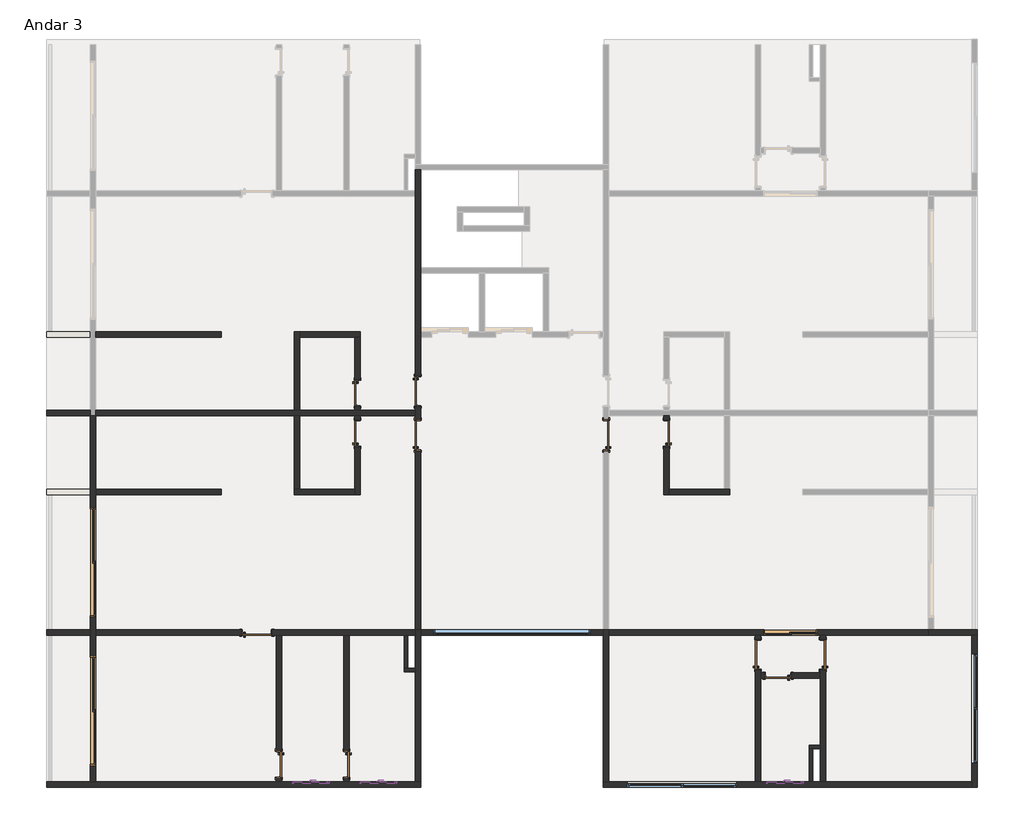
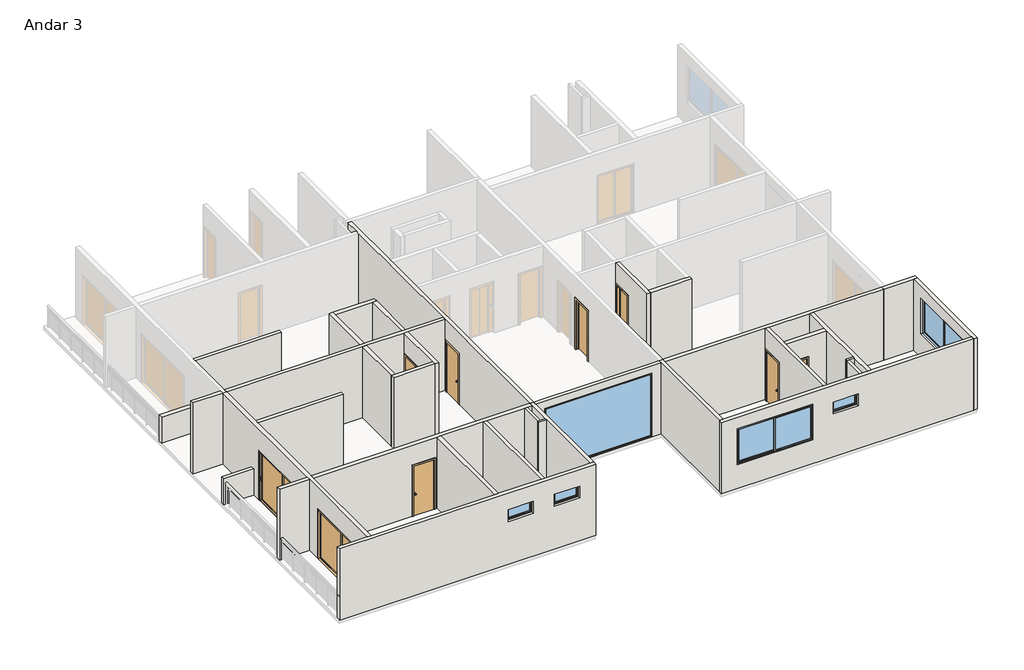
# One storey, part 1 of 3: 35 walls, 15 doors, 6 windows.
"""IFC4 building model written with IfcOpenShell, lengths in millimetres."""

from ifc_helpers import new_model, si_unit, frame, origin, place, context, project, spatial, polyline, outline, extrude, faceted_brep, transform, mapped, element, save
from components import door_3_00m_x_2_10m_5baaadc1, door_interior_single_flush_panel_wood_70m_89b55d44, door_interior_single_flush_panel_wood_70m_eb1ec4d9, door_interior_single_flush_panel_wood_80m_pcf_cb5077a7, door_interior_single_flush_panel_wood_80m_pcf_192ded05, p2_1_50m_x_2_10m_936728f7, window_d153a765, j1_3_00m_x_1_50m_28497eee, m_fixo_j3_4_30m_x_2_70m_9528c059

model = new_model("IFC4")

# Units and contexts
model_context = context("Model", 3, world=origin())
ifc_project = project(units=[si_unit("LENGTHUNIT", "METRE", prefix="MILLI")], contexts=[model_context])

# Site, building, storey
site = spatial("IfcSite", under=ifc_project)
building = spatial("IfcBuilding", under=site)
storey = spatial("IfcBuildingStorey", under=building, Name="Andar 3", Elevation=9150.0)

# Doors
placement = place(None, origin())
door_3_00m_x_2_10m_shape = door_3_00m_x_2_10m_5baaadc1(model_context)
element("IfcDoor", 1, ObjectType="Porta de Correr - 2 Folhas - ComPainel 1 : 3.00m x 2.10m", at=placement, inside=storey, context=model_context, shape_type="MappedRepresentation", body=[
    mapped(door_3_00m_x_2_10m_shape, transform((7275.0, 8395.7939229, 9150.0), x_axis=(0.0, 1.0, 0.0), y_axis=(-1.0, 0.0, 0.0), z_axis=(0.0, 0.0, 1.0))),
])
element("IfcDoor", 2, ObjectType="Porta de Correr - 2 Folhas - ComPainel 1 : 3.00m x 2.10m", at=placement, inside=storey, context=model_context, shape_type="MappedRepresentation", body=[
    mapped(door_3_00m_x_2_10m_shape, transform((7275.0, 4335.7939229, 9150.0), x_axis=(0.0, 1.0, 0.0), y_axis=(-1.0, 0.0, 0.0), z_axis=(0.0, 0.0, 1.0))),
])
door_interior_single_flush_panel_wood_70m_shape = door_interior_single_flush_panel_wood_70m_89b55d44(model_context)
element("IfcDoor", 3, ObjectType="Door-Interior-Single-Flush_Panel-Wood : .70m", at=placement, inside=storey, context=model_context, shape_type="MappedRepresentation", body=[
    mapped(door_interior_single_flush_panel_wood_70m_shape, transform((14496.825, 11949.6, 9150.0), x_axis=(0.0, 1.0, 0.0), y_axis=(-1.0, 0.0, 0.0), z_axis=(0.0, 0.0, 1.0))),
])
element("IfcDoor", 4, ObjectType="Door-Interior-Single-Flush_Panel-Wood : .70m", at=placement, inside=storey, context=model_context, shape_type="MappedRepresentation", body=[
    mapped(door_interior_single_flush_panel_wood_70m_shape, transform((14203.175, 2900.4, 9150.0), x_axis=(0.0, -1.0, 0.0), y_axis=(1.0, 0.0, 0.0), z_axis=(0.0, 0.0, 1.0))),
])
element("IfcDoor", 5, ObjectType="Door-Interior-Single-Flush_Panel-Wood : .70m", at=placement, inside=storey, context=model_context, shape_type="MappedRepresentation", body=[
    mapped(door_interior_single_flush_panel_wood_70m_shape, transform((26000.4, 5321.425, 9150.0), x_axis=(-1.0, 0.0, 0.0), y_axis=(0.0, -1.0, 0.0), z_axis=(0.0, 0.0, 1.0))),
])
element("IfcDoor", 6, ObjectType="Door-Interior-Single-Flush_Panel-Wood : .70m", at=placement, inside=storey, context=model_context, shape_type="MappedRepresentation", body=[
    mapped(door_interior_single_flush_panel_wood_70m_shape, transform((12353.175, 2900.4, 9150.0), x_axis=(0.0, -1.0, 0.0), y_axis=(1.0, 0.0, 0.0), z_axis=(0.0, 0.0, 1.0))),
])
door_interior_single_flush_panel_wood_70m_2_shape = door_interior_single_flush_panel_wood_70m_eb1ec4d9(model_context)
element("IfcDoor", 7, ObjectType="Door-Interior-Single-Flush_Panel-Wood : .70m", at=placement, inside=storey, context=model_context, shape_type="MappedRepresentation", body=[
    mapped(door_interior_single_flush_panel_wood_70m_2_shape, transform((14496.825, 13050.4, 9150.0), x_axis=(0.0, -1.0, 0.0), y_axis=(1.0, 0.0, 0.0), z_axis=(0.0, 0.0, 1.0))),
])
element("IfcDoor", 8, ObjectType="Door-Interior-Single-Flush_Panel-Wood : .70m", at=placement, inside=storey, context=model_context, shape_type="MappedRepresentation", body=[
    mapped(door_interior_single_flush_panel_wood_70m_2_shape, transform((22953.175, 11949.6, 9150.0), x_axis=(0.0, 1.0, 0.0), y_axis=(-1.0, 0.0, 0.0), z_axis=(0.0, 0.0, 1.0))),
])
door_interior_single_flush_panel_wood_80m_pcf_shape = door_interior_single_flush_panel_wood_80m_pcf_cb5077a7(model_context)
element("IfcDoor", 9, ObjectType="Door-Interior-Single-Flush_Panel-Wood : .80m", at=placement, inside=storey, context=model_context, shape_type="MappedRepresentation", body=[
    mapped(door_interior_single_flush_panel_wood_80m_pcf_shape, transform((11749.6, 6496.825, 9150.0), x_axis=(1.0, 0.0, 0.0), y_axis=(0.0, 1.0, 0.0), z_axis=(0.0, 0.0, 1.0))),
])
element("IfcDoor", 10, ObjectType="Door-Interior-Single-Flush_Panel-Wood : .80m", at=placement, inside=storey, context=model_context, shape_type="MappedRepresentation", body=[
    mapped(door_interior_single_flush_panel_wood_80m_pcf_shape, transform((27228.175, 5899.6, 9150.0), x_axis=(0.0, 1.0, 0.0), y_axis=(-1.0, 0.0, 0.0), z_axis=(0.0, 0.0, 1.0))),
])
door_interior_single_flush_panel_wood_80m_pcf_2_shape = door_interior_single_flush_panel_wood_80m_pcf_192ded05(model_context)
element("IfcDoor", 11, ObjectType="Door-Interior-Single-Flush_Panel-Wood : .80m", at=placement, inside=storey, context=model_context, shape_type="MappedRepresentation", body=[
    mapped(door_interior_single_flush_panel_wood_80m_pcf_2_shape, transform((25446.825, 5899.6, 9150.0), x_axis=(0.0, 1.0, 0.0), y_axis=(-1.0, 0.0, 0.0), z_axis=(0.0, 0.0, 1.0))),
])
element("IfcDoor", 12, ObjectType="Door-Interior-Single-Flush_Panel-Wood : .80m - PCF", at=placement, inside=storey, context=model_context, shape_type="MappedRepresentation", body=[
    mapped(door_interior_single_flush_panel_wood_80m_pcf_2_shape, transform((16146.825, 11899.6, 9150.0), x_axis=(0.0, 1.0, 0.0), y_axis=(-1.0, 0.0, 0.0), z_axis=(0.0, 0.0, 1.0))),
])
element("IfcDoor", 13, ObjectType="Door-Interior-Single-Flush_Panel-Wood : .80m - PCF", at=placement, inside=storey, context=model_context, shape_type="MappedRepresentation", body=[
    mapped(door_interior_single_flush_panel_wood_80m_pcf_shape, transform((16146.825, 13100.4, 9150.0), x_axis=(0.0, -1.0, 0.0), y_axis=(1.0, 0.0, 0.0), z_axis=(0.0, 0.0, 1.0))),
])
element("IfcDoor", 14, ObjectType="Door-Interior-Single-Flush_Panel-Wood : .80m - PCF", at=placement, inside=storey, context=model_context, shape_type="MappedRepresentation", body=[
    mapped(door_interior_single_flush_panel_wood_80m_pcf_shape, transform((21303.175, 11899.6, 9150.0), x_axis=(0.0, 1.0, 0.0), y_axis=(-1.0, 0.0, 0.0), z_axis=(0.0, 0.0, 1.0))),
])
p2_1_50m_x_2_10m_shape = p2_1_50m_x_2_10m_936728f7(model_context)
element("IfcDoor", 15, ObjectType="Porta de Correr - 2 Folhas - ComPainel 1 : P2 - 1.50m x 2.10m", at=placement, inside=storey, context=model_context, shape_type="MappedRepresentation", body=[
    mapped(p2_1_50m_x_2_10m_shape, transform((26308.2939229, 6500.0, 9150.0), x_axis=(1.0, 0.0, 0.0), y_axis=(0.0, 1.0, 0.0), z_axis=(0.0, 0.0, 1.0))),
])

# Walls
element("IfcWall", 16, ObjectType="M_Parede Normal - 10cm - Interna", at=placement, inside=storey, context=model_context, shape_type="Brep", body=[
    faceted_brep([(27150.0, 3425.0, 9150.0), (26850.0, 3425.0, 9150.0), (26850.0, 3425.0, 12150.0), (27150.0, 3425.0, 12150.0), (27150.0, 3325.0, 9150.0), (27150.0, 3325.0, 12150.0), (26950.0, 3325.0, 12150.0), (26850.0, 3325.0, 12150.0), (26850.0, 3325.0, 9150.0), (26950.0, 3325.0, 9150.0)], [[[0, 1, 2, 3]], [[4, 5, 6, 7, 8, 9]], [[1, 0, 4, 9, 8]], [[3, 2, 7, 6, 5]], [[2, 1, 8, 7]], [[0, 3, 5, 4]]]),
])
element("IfcWall", 17, ObjectType="M_Parede Normal - 10cm - Interna", at=placement, inside=storey, context=model_context, shape_type="SweptSolid", body=[
    extrude(outline(polyline([(26850.0, 2425.0), (26850.0, 3325.0), (26950.0, 3325.0), (26950.0, 2425.0), (26850.0, 2425.0)])), frame((0.0, 0.0, 9150.0), z_axis=(0.0, 0.0, 1.0), x_axis=(1.0, 0.0, 0.0)), (0.0, 0.0, 1.0), 3000.0),
])
element("IfcWall", 18, ObjectType="M_Parede Normal - 10cm - Interna", at=placement, inside=storey, context=model_context, shape_type="Brep", body=[
    faceted_brep([(16075.0, 5525.0, 9150.0), (15875.0, 5525.0, 9150.0), (15775.0, 5525.0, 9150.0), (15775.0, 5525.0, 12150.0), (15875.0, 5525.0, 12150.0), (16075.0, 5525.0, 12150.0), (16075.0, 5425.0, 9150.0), (16075.0, 5425.0, 12150.0), (15775.0, 5425.0, 12150.0), (15775.0, 5425.0, 9150.0)], [[[0, 1, 2, 3, 4, 5]], [[6, 7, 8, 9]], [[2, 1, 0, 6, 9]], [[5, 4, 3, 8, 7]], [[3, 2, 9, 8]], [[0, 5, 7, 6]]]),
])
element("IfcWall", 19, ObjectType="M_Parede Normal - 10cm - Interna", at=placement, inside=storey, context=model_context, shape_type="SweptSolid", body=[
    extrude(outline(polyline([(15875.0, 6425.0), (15875.0, 5525.0), (15775.0, 5525.0), (15775.0, 6425.0), (15875.0, 6425.0)])), frame((0.0, 0.0, 9150.0), z_axis=(0.0, 0.0, 1.0), x_axis=(1.0, 0.0, 0.0)), (0.0, 0.0, 1.0), 3000.0),
])
element("IfcWall", 20, ObjectType="M_Parede Normal - 15cm - Externa", at=placement, inside=storey, context=model_context, shape_type="SweptSolid", body=[
    extrude(outline(polyline([(7200.0, 14575.0), (6000.0, 14575.0), (6000.0, 14725.0), (7200.0, 14725.0), (7200.0, 14575.0)])), frame((0.0, 0.0, 9150.0), z_axis=(0.0, 0.0, 1.0), x_axis=(1.0, 0.0, 0.0)), (0.0, 0.0, 1.0), 1100.0),
])
element("IfcWall", 21, ObjectType="M_Parede Normal - 15cm - Externa", at=placement, inside=storey, context=model_context, shape_type="Brep", body=[
    faceted_brep([(16225.0, 2425.0, 9150.0), (16225.0, 6425.0, 9150.0), (16225.0, 6575.0, 9150.0), (16225.0, 6575.0, 12150.0), (16225.0, 6425.0, 12150.0), (16225.0, 2425.0, 12150.0), (16075.0, 2425.0, 9150.0), (16075.0, 2425.0, 12150.0), (16075.0, 2475.0, 12150.0), (16075.0, 5425.0, 12150.0), (16075.0, 5525.0, 12150.0), (16075.0, 6425.0, 12150.0), (16075.0, 6575.0, 12150.0), (16075.0, 6575.0, 9150.0), (16075.0, 6425.0, 9150.0), (16075.0, 5525.0, 9150.0), (16075.0, 5425.0, 9150.0)], [[[0, 1, 2, 3, 4, 5]], [[6, 7, 8, 9, 10, 11, 12, 13, 14, 15, 16]], [[2, 1, 0, 6, 16, 15, 14, 13]], [[5, 4, 3, 12, 11, 10, 9, 8, 7]], [[0, 5, 7, 6]], [[3, 2, 13, 12]]]),
])
element("IfcWall", 22, ObjectType="M_Parede Normal - 15cm - Externa", at=placement, inside=storey, context=model_context, shape_type="Brep", body=[
    faceted_brep([(6000.0, 2275.0, 9150.0), (16225.0, 2275.0, 9150.0), (16225.0, 2275.0, 12150.0), (6000.0, 2275.0, 12150.0), (13725.0, 2275.0, 10950.0), (12725.0, 2275.0, 10950.0), (12725.0, 2275.0, 11450.0), (13725.0, 2275.0, 11450.0), (15575.0, 2275.0, 10950.0), (14575.0, 2275.0, 10950.0), (14575.0, 2275.0, 11450.0), (15575.0, 2275.0, 11450.0), (6000.0, 2425.0, 9150.0), (6000.0, 2425.0, 12150.0), (6500.0, 2425.0, 12150.0), (7200.0, 2425.0, 12150.0), (7350.0, 2425.0, 12150.0), (12275.0, 2425.0, 12150.0), (12425.0, 2425.0, 12150.0), (14125.0, 2425.0, 12150.0), (14275.0, 2425.0, 12150.0), (15725.0, 2425.0, 12150.0), (16075.0, 2425.0, 12150.0), (16225.0, 2425.0, 12150.0), (16225.0, 2425.0, 9150.0), (16075.0, 2425.0, 9150.0), (14275.0, 2425.0, 9150.0), (14125.0, 2425.0, 9150.0), (12425.0, 2425.0, 9150.0), (12275.0, 2425.0, 9150.0), (7350.0, 2425.0, 9150.0), (7200.0, 2425.0, 9150.0), (13725.0, 2425.0, 10950.0), (13725.0, 2425.0, 11450.0), (12725.0, 2425.0, 11450.0), (12725.0, 2425.0, 10950.0), (15575.0, 2425.0, 10950.0), (15575.0, 2425.0, 11450.0), (14575.0, 2425.0, 11450.0), (14575.0, 2425.0, 10950.0)], [[[0, 1, 2, 3], [4, 5, 6, 7], [8, 9, 10, 11]], [[12, 13, 14, 15, 16, 17, 18, 19, 20, 21, 22, 23, 24, 25, 26, 27, 28, 29, 30, 31], [32, 33, 34, 35], [36, 37, 38, 39]], [[1, 0, 12, 31, 30, 29, 28, 27, 26, 25, 24]], [[3, 2, 23, 22, 21, 20, 19, 18, 17, 16, 15, 14, 13]], [[0, 3, 13, 12]], [[2, 1, 24, 23]], [[33, 32, 4, 7]], [[34, 33, 7, 6]], [[35, 34, 6, 5]], [[32, 35, 5, 4]], [[37, 36, 8, 11]], [[38, 37, 11, 10]], [[39, 38, 10, 9]], [[36, 39, 9, 8]]]),
])
element("IfcWall", 23, ObjectType="M_Parede Normal - 15cm - Externa", at=placement, inside=storey, context=model_context, shape_type="Brep", body=[
    faceted_brep([(7200.0, 2425.0, 12150.0), (7200.0, 6425.0, 12150.0), (7200.0, 6575.0, 12150.0), (7200.0, 12425.0, 12150.0), (7200.0, 12425.0, 9150.0), (7200.0, 9925.0, 9150.0), (7200.0, 9925.0, 11250.0), (7200.0, 6925.0, 11250.0), (7200.0, 6925.0, 9150.0), (7200.0, 6575.0, 9150.0), (7200.0, 6425.0, 9150.0), (7200.0, 5865.0, 9150.0), (7200.0, 5865.0, 11250.0), (7200.0, 2865.0, 11250.0), (7200.0, 2865.0, 9150.0), (7200.0, 2425.0, 9150.0), (7350.0, 12425.0, 12150.0), (7350.0, 6575.0, 12150.0), (7350.0, 6425.0, 12150.0), (7350.0, 2425.0, 12150.0), (7350.0, 2425.0, 9150.0), (7350.0, 2865.0, 9150.0), (7350.0, 2865.0, 11250.0), (7350.0, 5865.0, 11250.0), (7350.0, 5865.0, 9150.0), (7350.0, 6425.0, 9150.0), (7350.0, 6575.0, 9150.0), (7350.0, 6925.0, 9150.0), (7350.0, 6925.0, 11250.0), (7350.0, 9925.0, 11250.0), (7350.0, 9925.0, 9150.0), (7350.0, 12425.0, 9150.0)], [[[0, 1, 2, 3, 4, 5, 6, 7, 8, 9, 10, 11, 12, 13, 14, 15]], [[16, 17, 18, 19, 20, 21, 22, 23, 24, 25, 26, 27, 28, 29, 30, 31]], [[20, 15, 14, 21]], [[24, 11, 10, 9, 8, 27, 26, 25]], [[4, 31, 30, 5]], [[3, 2, 1, 0, 19, 18, 17, 16]], [[0, 15, 20, 19]], [[4, 3, 16, 31]], [[23, 12, 11, 24]], [[12, 23, 22, 13]], [[13, 22, 21, 14]], [[29, 6, 5, 30]], [[6, 29, 28, 7]], [[7, 28, 27, 8]]]),
])
element("IfcWall", 24, ObjectType="M_Parede Normal - 15cm - Externa", at=placement, inside=storey, context=model_context, shape_type="Brep", body=[
    faceted_brep([(21375.0, 2425.0, 9150.0), (21375.0, 6425.0, 9150.0), (21375.0, 6575.0, 9150.0), (21375.0, 6575.0, 12150.0), (21375.0, 6425.0, 12150.0), (21375.0, 2475.0, 12150.0), (21375.0, 2425.0, 12150.0), (21225.0, 2425.0, 9150.0), (21225.0, 2425.0, 12150.0), (21225.0, 6425.0, 12150.0), (21225.0, 6575.0, 12150.0), (21225.0, 6575.0, 9150.0), (21225.0, 6425.0, 9150.0)], [[[0, 1, 2, 3, 4, 5, 6]], [[7, 8, 9, 10, 11, 12]], [[2, 1, 0, 7, 12, 11]], [[6, 5, 4, 3, 10, 9, 8]], [[0, 6, 8, 7]], [[3, 2, 11, 10]]]),
])
element("IfcWall", 25, ObjectType="M_Parede Normal - 15cm - Externa", at=placement, inside=storey, context=model_context, shape_type="Brep", body=[
    faceted_brep([(31300.0, 6425.0, 9150.0), (31300.0, 2425.0, 9150.0), (31300.0, 2275.0, 9150.0), (31300.0, 2275.0, 12150.0), (31300.0, 2425.0, 12150.0), (31300.0, 2475.0, 12150.0), (31300.0, 6425.0, 12150.0), (31300.0, 5925.0, 10150.0), (31300.0, 5925.0, 11650.0), (31300.0, 2925.0, 11650.0), (31300.0, 2925.0, 10150.0), (31450.0, 6425.0, 9150.0), (31450.0, 6425.0, 12150.0), (31450.0, 2275.0, 12150.0), (31450.0, 2275.0, 9150.0), (31450.0, 5925.0, 10150.0), (31450.0, 2925.0, 10150.0), (31450.0, 2925.0, 11650.0), (31450.0, 5925.0, 11650.0)], [[[0, 1, 2, 3, 4, 5, 6], [7, 8, 9, 10]], [[11, 12, 13, 14], [15, 16, 17, 18]], [[2, 1, 0, 11, 14]], [[6, 5, 4, 3, 13, 12]], [[0, 6, 12, 11]], [[3, 2, 14, 13]], [[8, 7, 15, 18]], [[9, 8, 18, 17]], [[10, 9, 17, 16]], [[7, 10, 16, 15]]]),
])
element("IfcWall", 26, ObjectType="M_Parede Normal - 15cm - Externa", at=placement, inside=storey, context=model_context, shape_type="SweptSolid", body=[
    extrude(outline(polyline([(6000.0, 6575.0), (7200.0, 6575.0), (7200.0, 6425.0), (6000.0, 6425.0), (6000.0, 6575.0)])), frame((0.0, 0.0, 9150.0), z_axis=(0.0, 0.0, 1.0), x_axis=(1.0, 0.0, 0.0)), (0.0, 0.0, 1.0), 3000.0),
])
element("IfcWall", 27, ObjectType="M_Parede Normal - 15cm - Externa", at=placement, inside=storey, context=model_context, shape_type="Brep", body=[
    faceted_brep([(30100.0, 6425.0, 9150.0), (31300.0, 6425.0, 9150.0), (31450.0, 6425.0, 9150.0), (31450.0, 6425.0, 12150.0), (31300.0, 6425.0, 12150.0), (30100.0, 6425.0, 12150.0), (30100.0, 6575.0, 9150.0), (30100.0, 6575.0, 12150.0), (30250.0, 6575.0, 12150.0), (31450.0, 6575.0, 12150.0), (31450.0, 6575.0, 9150.0), (30250.0, 6575.0, 9150.0)], [[[0, 1, 2, 3, 4, 5]], [[6, 7, 8, 9, 10, 11]], [[2, 1, 0, 6, 11, 10]], [[5, 4, 3, 9, 8, 7]], [[3, 2, 10, 9]], [[0, 5, 7, 6]]]),
])
element("IfcWall", 28, ObjectType="M_Parede Normal - 15cm - Externa", at=placement, inside=storey, context=model_context, shape_type="SweptSolid", body=[
    extrude(outline(polyline([(7200.0, 10275.0), (6000.0, 10275.0), (6000.0, 10425.0), (7200.0, 10425.0), (7200.0, 10275.0)])), frame((0.0, 0.0, 9150.0), z_axis=(0.0, 0.0, 1.0), x_axis=(1.0, 0.0, 0.0)), (0.0, 0.0, 1.0), 1100.0),
])
element("IfcWall", 29, ObjectType="M_Parede Normal - 15cm - Externa", at=placement, inside=storey, context=model_context, shape_type="Brep", body=[
    faceted_brep([(21225.0, 6425.0, 12150.0), (16225.0, 6425.0, 12150.0), (16225.0, 6425.0, 9150.0), (16575.0, 6425.0, 9150.0), (16575.0, 6425.0, 11850.0), (20875.0, 6425.0, 11850.0), (20875.0, 6425.0, 9150.0), (21225.0, 6425.0, 9150.0), (16225.0, 6575.0, 12150.0), (16575.0, 6575.0, 12150.0), (20875.0, 6575.0, 12150.0), (21225.0, 6575.0, 12150.0), (21225.0, 6575.0, 9150.0), (20875.0, 6575.0, 9150.0), (20875.0, 6575.0, 11850.0), (16575.0, 6575.0, 11850.0), (16575.0, 6575.0, 9150.0), (16225.0, 6575.0, 9150.0)], [[[0, 1, 2, 3, 4, 5, 6, 7]], [[8, 9, 10, 11, 12, 13, 14, 15, 16, 17]], [[2, 17, 16, 3]], [[12, 7, 6, 13]], [[1, 0, 11, 10, 9, 8]], [[2, 1, 8, 17]], [[0, 7, 12, 11]], [[5, 14, 13, 6]], [[14, 5, 4, 15]], [[15, 4, 3, 16]]]),
])
element("IfcWall", 30, ObjectType="M_Parede Normal - 15cm - Externa", at=placement, inside=storey, context=model_context, shape_type="Brep", body=[
    faceted_brep([(21225.0, 2275.0, 9150.0), (31300.0, 2275.0, 9150.0), (31300.0, 2275.0, 12150.0), (21225.0, 2275.0, 12150.0), (24875.0, 2275.0, 10150.0), (21875.0, 2275.0, 10150.0), (21875.0, 2275.0, 11650.0), (24875.0, 2275.0, 11650.0), (26687.5, 2275.0, 10950.0), (25687.5, 2275.0, 10950.0), (25687.5, 2275.0, 11450.0), (26687.5, 2275.0, 11450.0), (21225.0, 2425.0, 9150.0), (21225.0, 2425.0, 12150.0), (21375.0, 2425.0, 12150.0), (21725.0, 2425.0, 12150.0), (25375.0, 2425.0, 12150.0), (25525.0, 2425.0, 12150.0), (26850.0, 2425.0, 12150.0), (26950.0, 2425.0, 12150.0), (27150.0, 2425.0, 12150.0), (27300.0, 2425.0, 12150.0), (30950.0, 2425.0, 12150.0), (31300.0, 2425.0, 12150.0), (31300.0, 2425.0, 9150.0), (27300.0, 2425.0, 9150.0), (27150.0, 2425.0, 9150.0), (26950.0, 2425.0, 9150.0), (26850.0, 2425.0, 9150.0), (25525.0, 2425.0, 9150.0), (25375.0, 2425.0, 9150.0), (21375.0, 2425.0, 9150.0), (24875.0, 2425.0, 10150.0), (24875.0, 2425.0, 11650.0), (21875.0, 2425.0, 11650.0), (21875.0, 2425.0, 10150.0), (26687.5, 2425.0, 10950.0), (26687.5, 2425.0, 11450.0), (25687.5, 2425.0, 11450.0), (25687.5, 2425.0, 10950.0)], [[[0, 1, 2, 3], [4, 5, 6, 7], [8, 9, 10, 11]], [[12, 13, 14, 15, 16, 17, 18, 19, 20, 21, 22, 23, 24, 25, 26, 27, 28, 29, 30, 31], [32, 33, 34, 35], [36, 37, 38, 39]], [[1, 0, 12, 31, 30, 29, 28, 27, 26, 25, 24]], [[3, 2, 23, 22, 21, 20, 19, 18, 17, 16, 15, 14, 13]], [[2, 1, 24, 23]], [[0, 3, 13, 12]], [[33, 32, 4, 7]], [[34, 33, 7, 6]], [[35, 34, 6, 5]], [[32, 35, 5, 4]], [[37, 36, 8, 11]], [[38, 37, 11, 10]], [[39, 38, 10, 9]], [[36, 39, 9, 8]]]),
])
element("IfcWall", 31, ObjectType="M_Parede Normal - 15cm - Externa", at=placement, inside=storey, context=model_context, shape_type="Brep", body=[
    faceted_brep([(7200.0, 12575.0, 9150.0), (6000.0, 12575.0, 9150.0), (6000.0, 12575.0, 12150.0), (6500.0, 12575.0, 12150.0), (7200.0, 12575.0, 12150.0), (7200.0, 12425.0, 9150.0), (7200.0, 12425.0, 12150.0), (6500.0, 12425.0, 12150.0), (6000.0, 12425.0, 12150.0), (6000.0, 12425.0, 9150.0)], [[[0, 1, 2, 3, 4]], [[5, 6, 7, 8, 9]], [[1, 0, 5, 9]], [[2, 1, 9, 8]], [[4, 3, 2, 8, 7, 6]], [[0, 4, 6, 5]]]),
])
element("IfcWall", 32, ObjectType="M_Parede Normal - 15cm - Interna", at=placement, inside=storey, context=model_context, shape_type="SweptSolid", body=[
    extrude(outline(polyline([(12575.0, 12150.0), (14575.0, 12150.0), (14575.0, 9150.0), (13425.8, 9150.0), (13425.8, 11275.4), (12675.0, 11275.4), (12675.0, 9150.0), (12575.0, 9150.0), (12575.0, 12150.0)])), frame((14425.0, 0.0, 0.0), z_axis=(1.0, 0.0, 0.0), x_axis=(0.0, 1.0, 0.0)), (0.0, 0.0, 1.0), 150.0),
])
element("IfcWall", 33, ObjectType="M_Parede Normal - 15cm - Interna", at=placement, inside=storey, context=model_context, shape_type="Brep", body=[
    faceted_brep([(14575.0, 14725.0, 9150.0), (12925.0, 14725.0, 9150.0), (12925.0, 14725.0, 12150.0), (14575.0, 14725.0, 12150.0), (14575.0, 14575.0, 9150.0), (14575.0, 14575.0, 12150.0), (14425.0, 14575.0, 12150.0), (12925.0, 14575.0, 12150.0), (12925.0, 14575.0, 9150.0), (14425.0, 14575.0, 9150.0)], [[[0, 1, 2, 3]], [[4, 5, 6, 7, 8, 9]], [[1, 0, 4, 9, 8]], [[3, 2, 7, 6, 5]], [[0, 3, 5, 4]], [[2, 1, 8, 7]]]),
])
element("IfcWall", 34, ObjectType="M_Parede Normal - 15cm - Interna", at=placement, inside=storey, context=model_context, shape_type="Brep", body=[
    faceted_brep([(12775.0, 14725.0, 9150.0), (12775.0, 12575.0, 9150.0), (12775.0, 12575.0, 12150.0), (12775.0, 14725.0, 12150.0), (12925.0, 14725.0, 9150.0), (12925.0, 14725.0, 12150.0), (12925.0, 14575.0, 12150.0), (12925.0, 12575.0, 12150.0), (12925.0, 12575.0, 9150.0), (12925.0, 14575.0, 9150.0)], [[[0, 1, 2, 3]], [[4, 5, 6, 7, 8, 9]], [[1, 0, 4, 9, 8]], [[3, 2, 7, 6, 5]], [[0, 3, 5, 4]], [[2, 1, 8, 7]]]),
])
element("IfcWall", 35, ObjectType="M_Parede Normal - 15cm - Interna", at=placement, inside=storey, context=model_context, shape_type="SweptSolid", body=[
    extrude(outline(polyline([(10775.0, 14575.0), (7350.0, 14575.0), (7350.0, 14725.0), (10775.0, 14725.0), (10775.0, 14575.0)])), frame((0.0, 0.0, 9150.0), z_axis=(0.0, 0.0, 1.0), x_axis=(1.0, 0.0, 0.0)), (0.0, 0.0, 1.0), 3000.0),
])
element("IfcWall", 36, ObjectType="M_Parede Normal - 15cm - Interna", at=placement, inside=storey, context=model_context, shape_type="Brep", body=[
    faceted_brep([(16075.0, 12575.0, 9150.0), (14575.0, 12575.0, 9150.0), (14425.0, 12575.0, 9150.0), (12925.0, 12575.0, 9150.0), (12775.0, 12575.0, 9150.0), (7350.0, 12575.0, 9150.0), (7350.0, 12575.0, 12150.0), (12775.0, 12575.0, 12150.0), (12925.0, 12575.0, 12150.0), (14425.0, 12575.0, 12150.0), (14575.0, 12575.0, 12150.0), (15725.0, 12575.0, 12150.0), (16075.0, 12575.0, 12150.0), (16075.0, 12425.0, 9150.0), (16075.0, 12425.0, 12150.0), (15725.0, 12425.0, 12150.0), (14575.0, 12425.0, 12150.0), (14425.0, 12425.0, 12150.0), (12925.0, 12425.0, 12150.0), (12775.0, 12425.0, 12150.0), (7350.0, 12425.0, 12150.0), (7350.0, 12425.0, 9150.0), (12775.0, 12425.0, 9150.0), (12925.0, 12425.0, 9150.0), (14425.0, 12425.0, 9150.0), (14575.0, 12425.0, 9150.0)], [[[0, 1, 2, 3, 4, 5, 6, 7, 8, 9, 10, 11, 12]], [[13, 14, 15, 16, 17, 18, 19, 20, 21, 22, 23, 24, 25]], [[5, 4, 3, 2, 1, 0, 13, 25, 24, 23, 22, 21]], [[12, 11, 10, 9, 8, 7, 6, 20, 19, 18, 17, 16, 15, 14]], [[0, 12, 14, 13]], [[6, 5, 21, 20]]]),
])
element("IfcWall", 37, ObjectType="M_Parede Normal - 15cm - Interna", at=placement, inside=storey, context=model_context, shape_type="Brep", body=[
    faceted_brep([(16075.0, 6575.0, 12150.0), (16075.0, 12400.0, 12150.0), (16075.0, 12425.0, 12150.0), (16075.0, 12575.0, 12150.0), (16075.0, 12600.0, 12150.0), (16075.0, 18425.0, 12150.0), (16075.0, 18575.0, 12150.0), (16075.0, 19149.2009656, 12150.0), (16075.0, 19149.2009656, 9150.0), (16075.0, 18575.0, 9150.0), (16075.0, 18425.0, 9150.0), (16075.0, 13525.8, 9150.0), (16075.0, 13525.8, 11275.4), (16075.0, 12675.0, 11275.4), (16075.0, 12675.0, 9150.0), (16075.0, 12575.0, 9150.0), (16075.0, 12425.0, 9150.0), (16075.0, 12325.0, 9150.0), (16075.0, 12325.0, 11275.4), (16075.0, 11474.2, 11275.4), (16075.0, 11474.2, 9150.0), (16075.0, 6575.0, 9150.0), (16225.0, 19149.2009656, 12150.0), (16225.0, 19099.2009656, 12150.0), (16225.0, 16525.0, 12150.0), (16225.0, 16475.0, 12150.0), (16225.0, 16325.0, 12150.0), (16225.0, 14725.0, 12150.0), (16225.0, 14575.0, 12150.0), (16225.0, 6625.0, 12150.0), (16225.0, 6575.0, 12150.0), (16225.0, 6575.0, 9150.0), (16225.0, 11474.2, 9150.0), (16225.0, 11474.2, 11275.4), (16225.0, 12325.0, 11275.4), (16225.0, 12325.0, 9150.0), (16225.0, 12675.0, 9150.0), (16225.0, 12675.0, 11275.4), (16225.0, 13525.8, 11275.4), (16225.0, 13525.8, 9150.0), (16225.0, 14575.0, 9150.0), (16225.0, 14725.0, 9150.0), (16225.0, 16325.0, 9150.0), (16225.0, 16475.0, 9150.0), (16225.0, 19149.2009656, 9150.0)], [[[0, 1, 2, 3, 4, 5, 6, 7, 8, 9, 10, 11, 12, 13, 14, 15, 16, 17, 18, 19, 20, 21]], [[22, 23, 24, 25, 26, 27, 28, 29, 30, 31, 32, 33, 34, 35, 36, 37, 38, 39, 40, 41, 42, 43, 44]], [[14, 36, 35, 17, 16, 15]], [[11, 10, 9, 8, 44, 43, 42, 41, 40, 39]], [[31, 21, 20, 32]], [[7, 6, 5, 4, 3, 2, 1, 0, 30, 29, 28, 27, 26, 25, 24, 23, 22]], [[13, 37, 36, 14]], [[37, 13, 12, 38]], [[38, 12, 11, 39]], [[8, 7, 22, 44]], [[0, 21, 31, 30]], [[34, 18, 17, 35]], [[18, 34, 33, 19]], [[19, 33, 32, 20]]]),
])
element("IfcWall", 38, ObjectType="M_Parede Normal - 15cm - Interna", at=placement, inside=storey, context=model_context, shape_type="Brep", body=[
    faceted_brep([(7350.0, 6575.0, 12150.0), (16075.0, 6575.0, 12150.0), (16075.0, 6575.0, 9150.0), (12175.0, 6575.0, 9150.0), (12175.0, 6575.0, 11275.4), (11324.2, 6575.0, 11275.4), (11324.2, 6575.0, 9150.0), (7350.0, 6575.0, 9150.0), (16075.0, 6425.0, 12150.0), (15875.0, 6425.0, 12150.0), (15775.0, 6425.0, 12150.0), (14275.0, 6425.0, 12150.0), (14125.0, 6425.0, 12150.0), (12425.0, 6425.0, 12150.0), (12275.0, 6425.0, 12150.0), (7350.0, 6425.0, 12150.0), (7350.0, 6425.0, 9150.0), (11324.2, 6425.0, 9150.0), (11324.2, 6425.0, 11275.4), (12175.0, 6425.0, 11275.4), (12175.0, 6425.0, 9150.0), (12275.0, 6425.0, 9150.0), (12425.0, 6425.0, 9150.0), (14125.0, 6425.0, 9150.0), (14275.0, 6425.0, 9150.0), (15775.0, 6425.0, 9150.0), (15875.0, 6425.0, 9150.0), (16075.0, 6425.0, 9150.0)], [[[0, 1, 2, 3, 4, 5, 6, 7]], [[8, 9, 10, 11, 12, 13, 14, 15, 16, 17, 18, 19, 20, 21, 22, 23, 24, 25, 26, 27]], [[2, 27, 26, 25, 24, 23, 22, 21, 20, 3]], [[16, 7, 6, 17]], [[1, 0, 15, 14, 13, 12, 11, 10, 9, 8]], [[19, 4, 3, 20]], [[4, 19, 18, 5]], [[5, 18, 17, 6]], [[2, 1, 8, 27]], [[0, 7, 16, 15]]]),
])
element("IfcWall", 39, ObjectType="M_Parede Normal - 15cm - Interna", at=placement, inside=storey, context=model_context, shape_type="SweptSolid", body=[
    extrude(outline(polyline([(2425.0, 12150.0), (6425.0, 12150.0), (6425.0, 9150.0), (3275.8, 9150.0), (3275.8, 11275.4), (2525.0, 11275.4), (2525.0, 9150.0), (2425.0, 9150.0), (2425.0, 12150.0)])), frame((14125.0, 0.0, 0.0), z_axis=(1.0, 0.0, 0.0), x_axis=(0.0, 1.0, 0.0)), (0.0, 0.0, 1.0), 150.0),
])
element("IfcWall", 40, ObjectType="M_Parede Normal - 15cm - Interna", at=placement, inside=storey, context=model_context, shape_type="Brep", body=[
    faceted_brep([(14425.0, 10275.0, 12150.0), (14425.0, 10425.0, 12150.0), (14425.0, 12425.0, 12150.0), (14425.0, 12425.0, 9150.0), (14425.0, 12325.0, 9150.0), (14425.0, 12325.0, 11275.4), (14425.0, 11574.2, 11275.4), (14425.0, 11574.2, 9150.0), (14425.0, 10425.0, 9150.0), (14425.0, 10275.0, 9150.0), (14575.0, 12425.0, 12150.0), (14575.0, 10275.0, 12150.0), (14575.0, 10275.0, 9150.0), (14575.0, 11574.2, 9150.0), (14575.0, 11574.2, 11275.4), (14575.0, 12325.0, 11275.4), (14575.0, 12325.0, 9150.0), (14575.0, 12425.0, 9150.0)], [[[0, 1, 2, 3, 4, 5, 6, 7, 8, 9]], [[10, 11, 12, 13, 14, 15, 16, 17]], [[12, 9, 8, 7, 13]], [[3, 17, 16, 4]], [[2, 1, 0, 11, 10]], [[15, 5, 4, 16]], [[5, 15, 14, 6]], [[6, 14, 13, 7]], [[0, 9, 12, 11]], [[3, 2, 10, 17]]]),
])
element("IfcWall", 41, ObjectType="M_Parede Normal - 15cm - Interna", at=placement, inside=storey, context=model_context, shape_type="Brep", body=[
    faceted_brep([(14425.0, 10425.0, 9150.0), (12925.0, 10425.0, 9150.0), (12775.0, 10425.0, 9150.0), (12775.0, 10425.0, 12150.0), (12925.0, 10425.0, 12150.0), (14425.0, 10425.0, 12150.0), (14425.0, 10275.0, 9150.0), (14425.0, 10275.0, 12150.0), (12775.0, 10275.0, 12150.0), (12775.0, 10275.0, 9150.0)], [[[0, 1, 2, 3, 4, 5]], [[6, 7, 8, 9]], [[2, 1, 0, 6, 9]], [[5, 4, 3, 8, 7]], [[3, 2, 9, 8]], [[0, 5, 7, 6]]]),
])
element("IfcWall", 42, ObjectType="M_Parede Normal - 15cm - Interna", at=placement, inside=storey, context=model_context, shape_type="SweptSolid", body=[
    extrude(outline(polyline([(12925.0, 12425.0), (12925.0, 10425.0), (12775.0, 10425.0), (12775.0, 12425.0), (12925.0, 12425.0)])), frame((0.0, 0.0, 9150.0), z_axis=(0.0, 0.0, 1.0), x_axis=(1.0, 0.0, 0.0)), (0.0, 0.0, 1.0), 3000.0),
])
element("IfcWall", 43, ObjectType="M_Parede Normal - 15cm - Interna", at=placement, inside=storey, context=model_context, shape_type="SweptSolid", body=[
    extrude(outline(polyline([(10775.0, 10275.0), (7350.0, 10275.0), (7350.0, 10425.0), (10775.0, 10425.0), (10775.0, 10275.0)])), frame((0.0, 0.0, 9150.0), z_axis=(0.0, 0.0, 1.0), x_axis=(1.0, 0.0, 0.0)), (0.0, 0.0, 1.0), 3000.0),
])
element("IfcWall", 44, ObjectType="M_Parede Normal - 15cm - Interna", at=placement, inside=storey, context=model_context, shape_type="Brep", body=[
    faceted_brep([(30100.0, 6425.0, 12150.0), (27300.0, 6425.0, 12150.0), (27150.0, 6425.0, 12150.0), (25525.0, 6425.0, 12150.0), (25375.0, 6425.0, 12150.0), (21375.0, 6425.0, 12150.0), (21375.0, 6425.0, 9150.0), (25375.0, 6425.0, 9150.0), (25525.0, 6425.0, 9150.0), (25587.5, 6425.0, 9150.0), (25587.5, 6425.0, 11250.0), (27087.5, 6425.0, 11250.0), (27087.5, 6425.0, 9150.0), (27150.0, 6425.0, 9150.0), (27300.0, 6425.0, 9150.0), (30100.0, 6425.0, 9150.0), (21375.0, 6575.0, 12150.0), (30100.0, 6575.0, 12150.0), (30100.0, 6575.0, 9150.0), (27087.5, 6575.0, 9150.0), (27087.5, 6575.0, 11250.0), (25587.5, 6575.0, 11250.0), (25587.5, 6575.0, 9150.0), (21375.0, 6575.0, 9150.0)], [[[0, 1, 2, 3, 4, 5, 6, 7, 8, 9, 10, 11, 12, 13, 14, 15]], [[16, 17, 18, 19, 20, 21, 22, 23]], [[6, 23, 22, 9, 8, 7]], [[18, 15, 14, 13, 12, 19]], [[5, 4, 3, 2, 1, 0, 17, 16]], [[11, 20, 19, 12]], [[20, 11, 10, 21]], [[21, 10, 9, 22]], [[6, 5, 16, 23]], [[0, 15, 18, 17]]]),
])
element("IfcWall", 45, ObjectType="M_Parede Normal - 15cm - Interna", at=placement, inside=storey, context=model_context, shape_type="Brep", body=[
    faceted_brep([(22875.0, 10275.0, 12150.0), (22875.0, 12425.0, 12150.0), (22875.0, 12425.0, 9150.0), (22875.0, 12325.0, 9150.0), (22875.0, 12325.0, 11275.4), (22875.0, 11574.2, 11275.4), (22875.0, 11574.2, 9150.0), (22875.0, 10275.0, 9150.0), (23025.0, 12425.0, 12150.0), (23025.0, 10425.0, 12150.0), (23025.0, 10275.0, 12150.0), (23025.0, 10275.0, 9150.0), (23025.0, 10425.0, 9150.0), (23025.0, 11574.2, 9150.0), (23025.0, 11574.2, 11275.4), (23025.0, 12325.0, 11275.4), (23025.0, 12325.0, 9150.0), (23025.0, 12425.0, 9150.0)], [[[0, 1, 2, 3, 4, 5, 6, 7]], [[8, 9, 10, 11, 12, 13, 14, 15, 16, 17]], [[11, 7, 6, 13, 12]], [[2, 17, 16, 3]], [[1, 0, 10, 9, 8]], [[15, 4, 3, 16]], [[4, 15, 14, 5]], [[5, 14, 13, 6]], [[0, 7, 11, 10]], [[2, 1, 8, 17]]]),
])
element("IfcWall", 46, ObjectType="M_Parede Normal - 15cm - Interna", at=placement, inside=storey, context=model_context, shape_type="Brep", body=[
    faceted_brep([(23025.0, 10275.0, 9150.0), (24675.0, 10275.0, 9150.0), (24675.0, 10275.0, 12150.0), (23025.0, 10275.0, 12150.0), (23025.0, 10425.0, 9150.0), (23025.0, 10425.0, 12150.0), (24525.0, 10425.0, 12150.0), (24675.0, 10425.0, 12150.0), (24675.0, 10425.0, 9150.0), (24525.0, 10425.0, 9150.0)], [[[0, 1, 2, 3]], [[4, 5, 6, 7, 8, 9]], [[1, 0, 4, 9, 8]], [[3, 2, 7, 6, 5]], [[2, 1, 8, 7]], [[0, 3, 5, 4]]]),
])
element("IfcWall", 47, ObjectType="M_Parede Normal - 15cm - Interna", at=placement, inside=storey, context=model_context, shape_type="Brep", body=[
    faceted_brep([(27150.0, 2425.0, 12150.0), (27150.0, 3325.0, 12150.0), (27150.0, 3425.0, 12150.0), (27150.0, 5249.6, 12150.0), (27150.0, 5399.6, 12150.0), (27150.0, 6425.0, 12150.0), (27150.0, 6425.0, 9150.0), (27150.0, 6325.0, 9150.0), (27150.0, 6325.0, 11275.4), (27150.0, 5474.2, 11275.4), (27150.0, 5474.2, 9150.0), (27150.0, 5399.6, 9150.0), (27150.0, 5249.6, 9150.0), (27150.0, 3425.0, 9150.0), (27150.0, 3325.0, 9150.0), (27150.0, 2425.0, 9150.0), (27300.0, 6425.0, 12150.0), (27300.0, 2425.0, 12150.0), (27300.0, 2425.0, 9150.0), (27300.0, 5474.2, 9150.0), (27300.0, 5474.2, 11275.4), (27300.0, 6325.0, 11275.4), (27300.0, 6325.0, 9150.0), (27300.0, 6425.0, 9150.0)], [[[0, 1, 2, 3, 4, 5, 6, 7, 8, 9, 10, 11, 12, 13, 14, 15]], [[16, 17, 18, 19, 20, 21, 22, 23]], [[6, 23, 22, 7]], [[18, 15, 14, 13, 12, 11, 10, 19]], [[5, 4, 3, 2, 1, 0, 17, 16]], [[21, 8, 7, 22]], [[8, 21, 20, 9]], [[9, 20, 19, 10]], [[0, 15, 18, 17]], [[6, 5, 16, 23]]]),
])
element("IfcWall", 48, ObjectType="M_Parede Normal - 15cm - Interna", at=placement, inside=storey, context=model_context, shape_type="Brep", body=[
    faceted_brep([(25375.0, 2425.0, 12150.0), (25375.0, 6425.0, 12150.0), (25375.0, 6425.0, 9150.0), (25375.0, 6325.0, 9150.0), (25375.0, 6325.0, 11275.4), (25375.0, 5474.2, 11275.4), (25375.0, 5474.2, 9150.0), (25375.0, 2425.0, 9150.0), (25525.0, 6425.0, 12150.0), (25525.0, 5399.6, 12150.0), (25525.0, 5249.6, 12150.0), (25525.0, 2425.0, 12150.0), (25525.0, 2425.0, 9150.0), (25525.0, 5249.6, 9150.0), (25525.0, 5399.6, 9150.0), (25525.0, 5474.2, 9150.0), (25525.0, 5474.2, 11275.4), (25525.0, 6325.0, 11275.4), (25525.0, 6325.0, 9150.0), (25525.0, 6425.0, 9150.0)], [[[0, 1, 2, 3, 4, 5, 6, 7]], [[8, 9, 10, 11, 12, 13, 14, 15, 16, 17, 18, 19]], [[2, 19, 18, 3]], [[12, 7, 6, 15, 14, 13]], [[1, 0, 11, 10, 9, 8]], [[17, 4, 3, 18]], [[4, 17, 16, 5]], [[5, 16, 15, 6]], [[0, 7, 12, 11]], [[2, 1, 8, 19]]]),
])
element("IfcWall", 49, ObjectType="M_Parede Normal - 15cm - Interna", at=placement, inside=storey, context=model_context, shape_type="SweptSolid", body=[
    extrude(outline(polyline([(12150.0, 27150.0), (12150.0, 25525.0), (9150.0, 25525.0), (9150.0, 25625.0), (11275.4, 25625.0), (11275.4, 26375.8), (9150.0, 26375.8), (9150.0, 27150.0), (12150.0, 27150.0)])), frame((0.0, 5249.6, 0.0), z_axis=(0.0, 1.0, 0.0), x_axis=(0.0, 0.0, 1.0)), (0.0, 0.0, 1.0), 150.0),
])
element("IfcWall", 50, ObjectType="M_Parede Normal - 15cm - Interna", at=placement, inside=storey, context=model_context, shape_type="SweptSolid", body=[
    extrude(outline(polyline([(2425.0, 12150.0), (6425.0, 12150.0), (6425.0, 9150.0), (3275.8, 9150.0), (3275.8, 11275.4), (2525.0, 11275.4), (2525.0, 9150.0), (2425.0, 9150.0), (2425.0, 12150.0)])), frame((12275.0, 0.0, 0.0), z_axis=(1.0, 0.0, 0.0), x_axis=(0.0, 1.0, 0.0)), (0.0, 0.0, 1.0), 150.0),
])

# Windows
window_shape = window_d153a765(model_context)
element("IfcWindow", 51, ObjectType="Janela Basculante - Vidro - Pivotante : Janela maxim-ar - 1 Painel", at=placement, inside=storey, context=model_context, shape_type="MappedRepresentation", body=[
    mapped(window_shape, transform((15075.0, 2350.0, 10300.0), x_axis=(-1.0, 0.0, 0.0), y_axis=(0.0, -1.0, 0.0), z_axis=(0.0, 0.0, 1.0))),
])
element("IfcWindow", 52, ObjectType="Janela Basculante - Vidro - Pivotante : Janela maxim-ar - 1 Painel", at=placement, inside=storey, context=model_context, shape_type="MappedRepresentation", body=[
    mapped(window_shape, transform((26187.5, 2350.0, 10300.0), x_axis=(-1.0, 0.0, 0.0), y_axis=(0.0, -1.0, 0.0), z_axis=(0.0, 0.0, 1.0))),
])
element("IfcWindow", 53, ObjectType="Janela Basculante - Vidro - Pivotante : Janela maxim-ar - 1 Painel", at=placement, inside=storey, context=model_context, shape_type="MappedRepresentation", body=[
    mapped(window_shape, transform((13225.0, 2350.0, 10300.0), x_axis=(-1.0, 0.0, 0.0), y_axis=(0.0, -1.0, 0.0), z_axis=(0.0, 0.0, 1.0))),
])
j1_3_00m_x_1_50m_shape = j1_3_00m_x_1_50m_28497eee(model_context)
element("IfcWindow", 54, ObjectType="Janela de correr - 2 Painéis : J1 - 3.00m x 1.50m", at=placement, inside=storey, context=model_context, shape_type="MappedRepresentation", body=[
    mapped(j1_3_00m_x_1_50m_shape, transform((31375.0, 4425.0, 9500.0), x_axis=(0.0, -1.0, 0.0), y_axis=(1.0, 0.0, 0.0), z_axis=(0.0, 0.0, 1.0))),
])
element("IfcWindow", 55, ObjectType="Janela de correr - 2 Painéis : J1 - 3.00m x 1.50m", at=placement, inside=storey, context=model_context, shape_type="MappedRepresentation", body=[
    mapped(j1_3_00m_x_1_50m_shape, transform((23375.0, 2350.0, 9500.0), x_axis=(-1.0, 0.0, 0.0), y_axis=(0.0, -1.0, 0.0), z_axis=(0.0, 0.0, 1.0))),
])
m_fixo_j3_4_30m_x_2_70m_shape = m_fixo_j3_4_30m_x_2_70m_9528c059(model_context)
element("IfcWindow", 56, ObjectType="M_Fixo : J3 - 4.30m x 2.70m", at=placement, inside=storey, context=model_context, shape_type="MappedRepresentation", body=[
    mapped(m_fixo_j3_4_30m_x_2_70m_shape, transform((18725.0, 6513.0, 8235.0), x_axis=(-1.0, 0.0, 0.0), y_axis=(0.0, -1.0, 0.0), z_axis=(0.0, 0.0, 1.0))),
])

save(model, "model.ifc")
